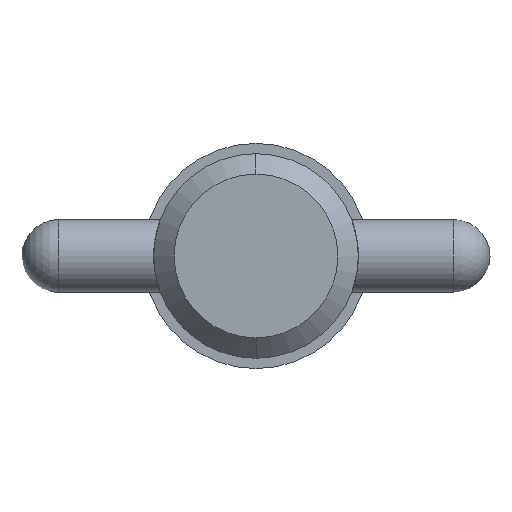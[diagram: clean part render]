
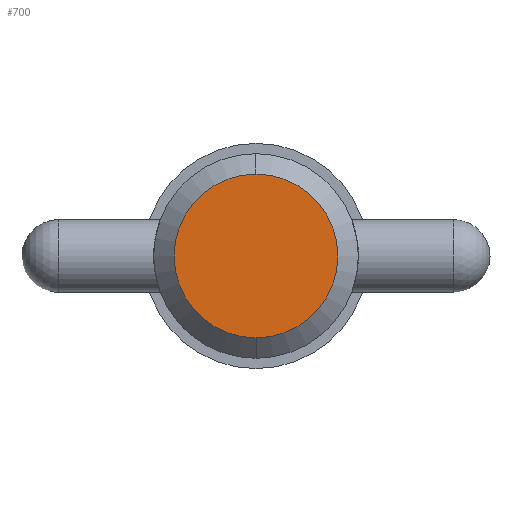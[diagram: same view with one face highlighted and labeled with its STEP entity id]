
A CAD part, left-side view. The second image highlights one B-rep face of the part: STEP entity #700.
In plain terms, the highlighted planar face has unit normal (-1, 0, 0).
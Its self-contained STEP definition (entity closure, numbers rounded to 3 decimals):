
#82 = ORIENTED_EDGE ( 'NONE', *, *, #793, .F. ) ;
#88 = EDGE_LOOP ( 'NONE', ( #82, #874 ) ) ;
#111 = AXIS2_PLACEMENT_3D ( 'NONE', #636, #176, #648 ) ;
#148 = AXIS2_PLACEMENT_3D ( 'NONE', #321, #481, #394 ) ;
#162 = CARTESIAN_POINT ( 'NONE',  ( 0., 0., 0. ) ) ;
#165 = CARTESIAN_POINT ( 'NONE',  ( 0., 0., -4.444 ) ) ;
#176 = DIRECTION ( 'NONE',  ( 1., 0., 0. ) ) ;
#190 = CARTESIAN_POINT ( 'NONE',  ( 0., 0., 4.444 ) ) ;
#254 = VERTEX_POINT ( 'NONE', #165 ) ;
#295 = DIRECTION ( 'NONE',  ( 0., 0., 1. ) ) ;
#321 = CARTESIAN_POINT ( 'NONE',  ( 0., 0., 0. ) ) ;
#349 = EDGE_CURVE ( 'NONE', #429, #254, #557, .T. ) ;
#385 = PLANE ( 'NONE',  #906 ) ;
#394 = DIRECTION ( 'NONE',  ( 0., 0., -1. ) ) ;
#429 = VERTEX_POINT ( 'NONE', #190 ) ;
#481 = DIRECTION ( 'NONE',  ( 1., 0., 0. ) ) ;
#527 = FACE_OUTER_BOUND ( 'NONE', #88, .T. ) ;
#557 = CIRCLE ( 'NONE', #111, 4.444 ) ;
#605 = DIRECTION ( 'NONE',  ( -1., 0., 0. ) ) ;
#636 = CARTESIAN_POINT ( 'NONE',  ( 0., 0., 0. ) ) ;
#643 = CIRCLE ( 'NONE', #148, 4.444 ) ;
#648 = DIRECTION ( 'NONE',  ( 0., 0., -1. ) ) ;
#700 = ADVANCED_FACE ( 'NONE', ( #527 ), #385, .T. ) ;
#793 = EDGE_CURVE ( 'NONE', #254, #429, #643, .T. ) ;
#874 = ORIENTED_EDGE ( 'NONE', *, *, #349, .F. ) ;
#906 = AXIS2_PLACEMENT_3D ( 'NONE', #162, #605, #295 ) ;
